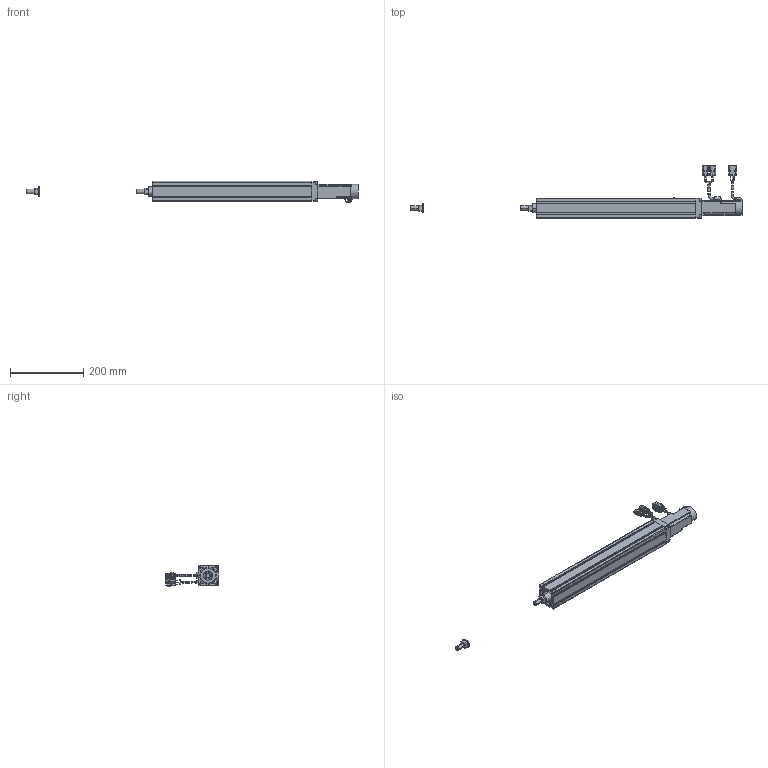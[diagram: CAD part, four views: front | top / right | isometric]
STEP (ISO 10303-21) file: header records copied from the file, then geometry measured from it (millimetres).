
FILE_DESCRIPTION((''),'2;1');
FILE_NAME('BET5E-ST-C_B-30_IGS_PRT','2017-06-18T',(' '),(''),'PRO/ENGINEER BY PARAMETRIC TECHNOLOGY CORPORATION, 2015030','PRO/ENGINEER BY PARAMETRIC TECHNOLOGY CORPORATION, 2015030','');
FILE_SCHEMA(('CONFIG_CONTROL_DESIGN'));
Length unit declared in the file: millimetre
Products named in the file (1): BET5E-ST-C_B-30_IGS_PRT
Bounding box: 904.1 x 142.99 x 57.56 mm (x, y, z)
Volume: 1113475.4 mm3; surface area: 303070.2 mm2
Topology: 8 solids, 34 shells, 987 faces, 2605 edges, 1691 vertices
Faces by surface type: plane 650, cylinder 251, torus 62, cone 20, sphere 4
Entity records: 30639 total; most frequent: CARTESIAN_POINT 5601, DIRECTION 5199, ORIENTED_EDGE 5134, EDGE_CURVE 2595, VECTOR 1879, LINE 1879, VERTEX_POINT 1691, AXIS2_PLACEMENT_3D 1660
